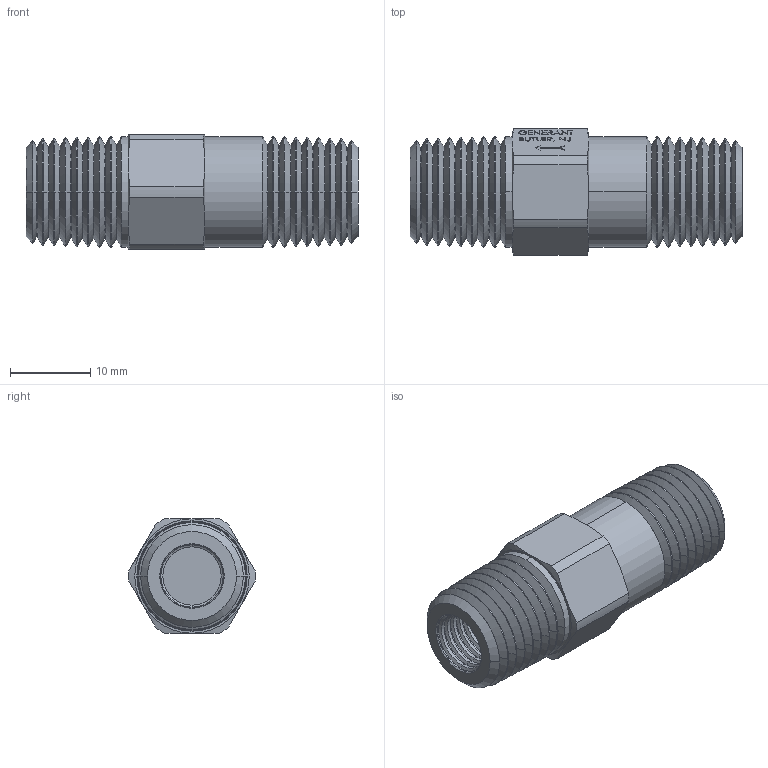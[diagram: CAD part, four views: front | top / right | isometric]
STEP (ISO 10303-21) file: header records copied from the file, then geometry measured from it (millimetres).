
FILE_DESCRIPTION (( 'STEP AP203' ), '1' );
FILE_NAME ('ACV-4P.STEP', '2013-04-16T13:12:28', ( '' ), ( '' ), 'SwSTEP 2.0', 'SolidWorks 2011', '' );
FILE_SCHEMA (( 'CONFIG_CONTROL_DESIGN' ));
Length unit declared in the file: inch
Products named in the file (2): ACV-4P; Part3^ACV-4P_CM
Assembly tree (1 placements, depth 2):
  ACV-4P
    Part3^ACV-4P_CM
Bounding box: 41.27 x 15.74 x 14.22 mm (x, y, z)
Volume: 4627.4 mm3; surface area: 3445.9 mm2
Topology: 1 solids, 1 shells, 540 faces, 1264 edges, 751 vertices
Faces by surface type: cone 214, plane 194, cylinder 92, bspline 40
Entity records: 17568 total; most frequent: CARTESIAN_POINT 5197, ORIENTED_EDGE 2524, DIRECTION 2504, EDGE_CURVE 1262, AXIS2_PLACEMENT_3D 842, VECTOR 820, LINE 820, VERTEX_POINT 751
